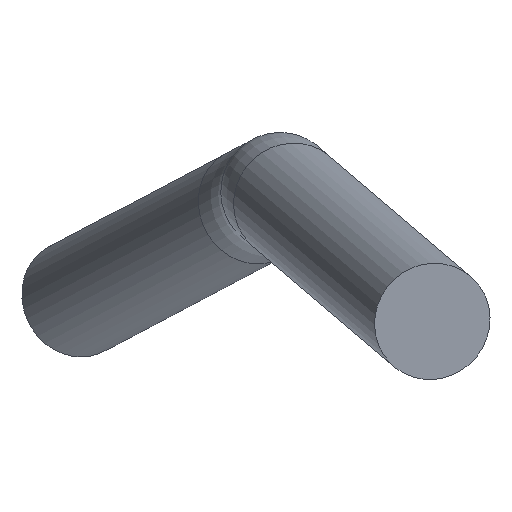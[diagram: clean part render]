
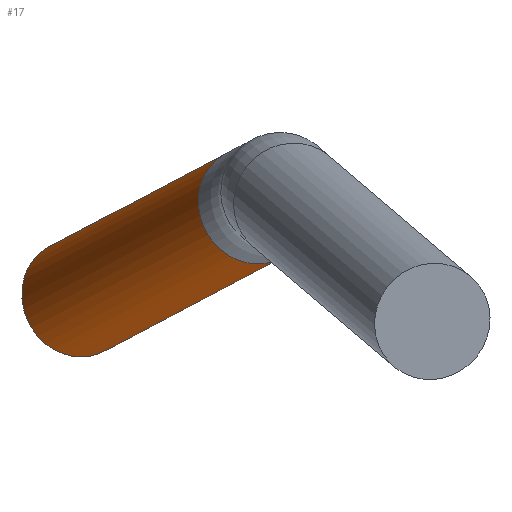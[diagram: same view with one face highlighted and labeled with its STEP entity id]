
A CAD part, left-side view. The second image highlights one B-rep face of the part: STEP entity #17.
In plain terms, the highlighted cylindrical face has radius 0.525 mm (diameter 1.05 mm), a full revolution.
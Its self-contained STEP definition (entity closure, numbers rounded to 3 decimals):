
#17 = ADVANCED_FACE('',(#18),#32,.T.);
#18 = FACE_BOUND('',#19,.T.);
#19 = EDGE_LOOP('',(#20,#49,#75,#76));
#20 = ORIENTED_EDGE('',*,*,#21,.T.);
#21 = EDGE_CURVE('',#22,#24,#26,.T.);
#22 = VERTEX_POINT('',#23);
#23 = CARTESIAN_POINT('',(18.695,22.913,-11.25));
#24 = VERTEX_POINT('',#25);
#25 = CARTESIAN_POINT('',(14.784,21.348,
    -10.424));
#26 = SEAM_CURVE('',#27,(#31,#42),.PCURVE_S1.);
#27 = LINE('',#28,#29);
#28 = CARTESIAN_POINT('',(18.695,22.913,-11.25));
#29 = VECTOR('',#30,1.);
#30 = DIRECTION('',(-0.911,-0.364,0.192));
#31 = PCURVE('',#32,#37);
#32 = CYLINDRICAL_SURFACE('',#33,0.525);
#33 = AXIS2_PLACEMENT_3D('',#34,#35,#36);
#34 = CARTESIAN_POINT('',(18.5,23.4,-11.25));
#35 = DIRECTION('',(-0.911,-0.364,0.192));
#36 = DIRECTION('',(0.371,-0.928,0.)
  );
#37 = DEFINITIONAL_REPRESENTATION('',(#38),#41);
#38 = B_SPLINE_CURVE_WITH_KNOTS('',1,(#39,#40),.UNSPECIFIED.,.F.,.F.,(2,
    2),(0.,4.292),.PIECEWISE_BEZIER_KNOTS.);
#39 = CARTESIAN_POINT('',(6.283,0.));
#40 = CARTESIAN_POINT('',(6.283,4.292));
#41 = ( GEOMETRIC_REPRESENTATION_CONTEXT(2) 
PARAMETRIC_REPRESENTATION_CONTEXT() REPRESENTATION_CONTEXT('2D SPACE',''
  ) );
#42 = PCURVE('',#32,#43);
#43 = DEFINITIONAL_REPRESENTATION('',(#44),#48);
#44 = LINE('',#45,#46);
#45 = CARTESIAN_POINT('',(0.,0.));
#46 = VECTOR('',#47,1.);
#47 = DIRECTION('',(0.,1.));
#48 = ( GEOMETRIC_REPRESENTATION_CONTEXT(2) 
PARAMETRIC_REPRESENTATION_CONTEXT() REPRESENTATION_CONTEXT('2D SPACE',''
  ) );
#49 = ORIENTED_EDGE('',*,*,#50,.F.);
#50 = EDGE_CURVE('',#24,#24,#51,.T.);
#51 = SURFACE_CURVE('',#52,(#57,#64),.PCURVE_S1.);
#52 = CIRCLE('',#53,0.525);
#53 = AXIS2_PLACEMENT_3D('',#54,#55,#56);
#54 = CARTESIAN_POINT('',(14.589,21.836,
    -10.424));
#55 = DIRECTION('',(-0.911,-0.364,0.192));
#56 = DIRECTION('',(0.371,-0.928,0.)
  );
#57 = PCURVE('',#32,#58);
#58 = DEFINITIONAL_REPRESENTATION('',(#59),#63);
#59 = LINE('',#60,#61);
#60 = CARTESIAN_POINT('',(0.,4.292));
#61 = VECTOR('',#62,1.);
#62 = DIRECTION('',(1.,0.));
#63 = ( GEOMETRIC_REPRESENTATION_CONTEXT(2) 
PARAMETRIC_REPRESENTATION_CONTEXT() REPRESENTATION_CONTEXT('2D SPACE',''
  ) );
#64 = PCURVE('',#65,#70);
#65 = TOROIDAL_SURFACE('',#66,3.,0.525);
#66 = AXIS2_PLACEMENT_3D('',#67,#68,#69);
#67 = CARTESIAN_POINT('',(13.353,24.253,
    -11.7));
#68 = DIRECTION('',(0.,-0.467,-0.884)
  );
#69 = DIRECTION('',(0.412,-0.806,0.425));
#70 = DEFINITIONAL_REPRESENTATION('',(#71),#74);
#71 = B_SPLINE_CURVE_WITH_KNOTS('',1,(#72,#73),.UNSPECIFIED.,.F.,.F.,(2,
    2),(0.,6.283),.PIECEWISE_BEZIER_KNOTS.);
#72 = CARTESIAN_POINT('',(0.,6.731));
#73 = CARTESIAN_POINT('',(0.,0.448));
#74 = ( GEOMETRIC_REPRESENTATION_CONTEXT(2) 
PARAMETRIC_REPRESENTATION_CONTEXT() REPRESENTATION_CONTEXT('2D SPACE',''
  ) );
#75 = ORIENTED_EDGE('',*,*,#21,.F.);
#76 = ORIENTED_EDGE('',*,*,#77,.T.);
#77 = EDGE_CURVE('',#22,#22,#78,.T.);
#78 = SURFACE_CURVE('',#79,(#84,#91),.PCURVE_S1.);
#79 = CIRCLE('',#80,0.525);
#80 = AXIS2_PLACEMENT_3D('',#81,#82,#83);
#81 = CARTESIAN_POINT('',(18.5,23.4,-11.25));
#82 = DIRECTION('',(-0.911,-0.364,0.192));
#83 = DIRECTION('',(0.371,-0.928,0.)
  );
#84 = PCURVE('',#32,#85);
#85 = DEFINITIONAL_REPRESENTATION('',(#86),#90);
#86 = LINE('',#87,#88);
#87 = CARTESIAN_POINT('',(0.,0.));
#88 = VECTOR('',#89,1.);
#89 = DIRECTION('',(1.,0.));
#90 = ( GEOMETRIC_REPRESENTATION_CONTEXT(2) 
PARAMETRIC_REPRESENTATION_CONTEXT() REPRESENTATION_CONTEXT('2D SPACE',''
  ) );
#91 = PCURVE('',#92,#97);
#92 = PLANE('',#93);
#93 = AXIS2_PLACEMENT_3D('',#94,#95,#96);
#94 = CARTESIAN_POINT('',(18.5,23.4,-11.25));
#95 = DIRECTION('',(-0.911,-0.364,0.192));
#96 = DIRECTION('',(0.371,-0.928,0.));
#97 = DEFINITIONAL_REPRESENTATION('',(#98),#102);
#98 = CIRCLE('',#99,0.525);
#99 = AXIS2_PLACEMENT_2D('',#100,#101);
#100 = CARTESIAN_POINT('',(0.,0.));
#101 = DIRECTION('',(1.,0.));
#102 = ( GEOMETRIC_REPRESENTATION_CONTEXT(2) 
PARAMETRIC_REPRESENTATION_CONTEXT() REPRESENTATION_CONTEXT('2D SPACE',''
  ) );
